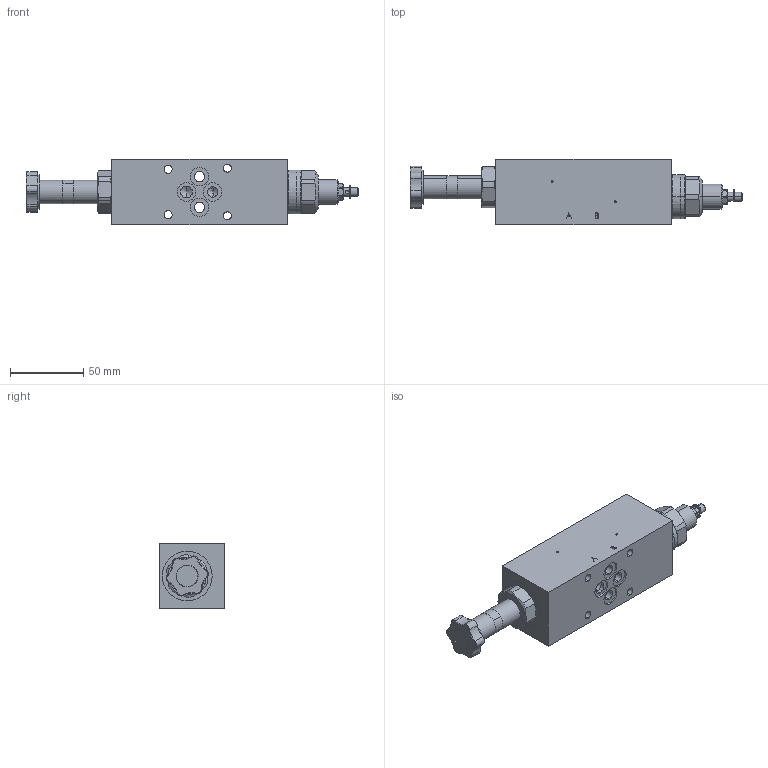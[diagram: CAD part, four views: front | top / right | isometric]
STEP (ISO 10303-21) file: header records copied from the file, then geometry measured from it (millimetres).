
FILE_DESCRIPTION (( 'STEP AP214' ), '1' );
FILE_NAME ('VQSSA06-B.STEP', '2017-04-06T11:07:19', ( '' ), ( '' ), 'SwSTEP 2.0', 'SolidWorks 2016', '' );
FILE_SCHEMA (( 'AUTOMOTIVE_DESIGN' ));
Length unit declared in the file: millimetre
Products named in the file (1): VQSSA06-B
Bounding box: 226.5 x 44.5 x 45 mm (x, y, z)
Volume: 266017.2 mm3; surface area: 40673.5 mm2
Topology: 3 solids, 4 shells, 332 faces, 813 edges, 503 vertices
Faces by surface type: cylinder 129, plane 105, cone 60, torus 29, bspline 9
Entity records: 14227 total; most frequent: CARTESIAN_POINT 2590, DIRECTION 1753, ORIENTED_EDGE 1598, EDGE_CURVE 799, AXIS2_PLACEMENT_3D 710, VERTEX_POINT 503, CIRCLE 386, EDGE_LOOP 380
